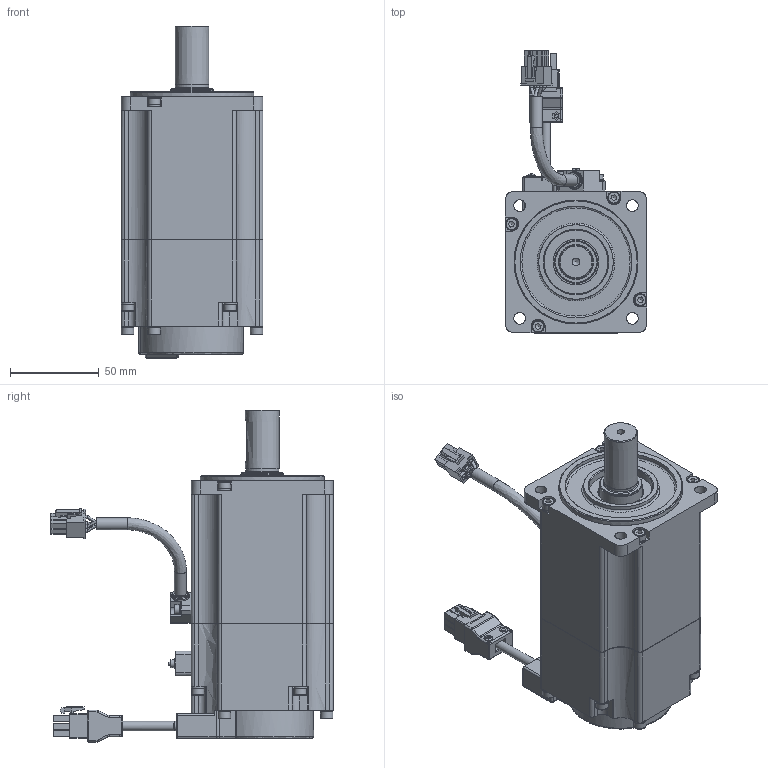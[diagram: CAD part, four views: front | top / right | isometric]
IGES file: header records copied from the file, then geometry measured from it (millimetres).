
Global section: file name: SME-H075B; native system: Autodesk Inventor 2019; preprocessor: unknown; date: 20200520.100114; units: millimetre
Bounding box: 80 x 159.33 x 187.5 mm (x, y, z)
Volume: 10601.3 mm3; surface area: 87658.3 mm2
Topology: 12 solids, 12 shells, 1559 faces, 8225 edges, 7389 vertices
Faces by surface type: bspline 1267, revolution 292
